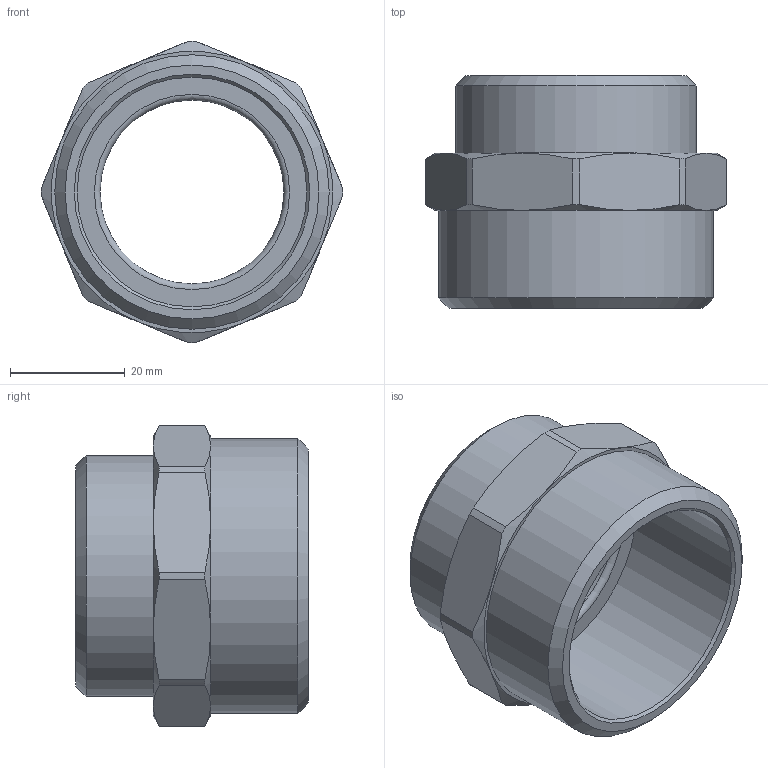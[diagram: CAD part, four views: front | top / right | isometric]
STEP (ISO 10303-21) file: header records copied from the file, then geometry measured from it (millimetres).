
FILE_DESCRIPTION(('STEP AP203'), '1');
FILE_NAME('ÂÐ.753157.010 - VTr.580.N.0807 Íèïïåëü G1 1-2xG1 1-4', '2024-07-03T10:21:15', ('Boss'), (''), 'C3D Converter', 'C3D Toolkit', '');
FILE_SCHEMA(('CONFIG_CONTROL_DESIGN'));
Length unit declared in the file: millimetre
Products named in the file (1): ВР.753157.010
Bounding box: 52.5 x 40.5 x 52.5 mm (x, y, z)
Volume: 25016.6 mm3; surface area: 12479.9 mm2
Topology: 1 solids, 1 shells, 46 faces, 102 edges, 61 vertices
Faces by surface type: cone 20, plane 13, cylinder 12, torus 1
Full cylindrical faces by diameter (mm): 32 x1, 40 x1, 41.91 x1, 47.803 x1
Entity records: 1989 total; most frequent: CARTESIAN_POINT 1077, DIRECTION 184, ORIENTED_EDGE 170, EDGE_CURVE 85, AXIS2_PLACEMENT_3D 84, VERTEX_POINT 57, EDGE_LOOP 56, ADVANCED_FACE 42
